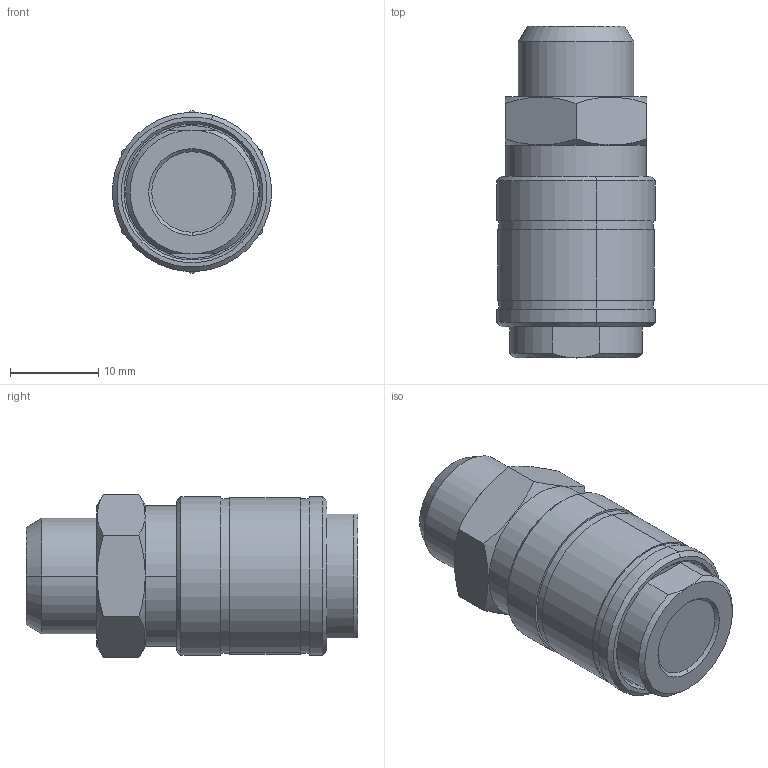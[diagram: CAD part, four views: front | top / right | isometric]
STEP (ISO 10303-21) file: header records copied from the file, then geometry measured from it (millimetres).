
FILE_DESCRIPTION (( 'STEP AP214' ), '1' );
FILE_NAME ('0018100002.step', '2012-11-19T11:01:08', ( '' ), ( '' ), 'SwSTEP 2.0', 'SolidWorks 2012', '' );
FILE_SCHEMA (( 'AUTOMOTIVE_DESIGN' ));
Length unit declared in the file: millimetre
Products named in the file (1): 0018100002
Bounding box: 17.93 x 37.5 x 18.48 mm (x, y, z)
Surface area: 5691.2 mm2 (no closed solid volume)
Topology: 0 solids, 4 shells, 76 faces, 178 edges, 114 vertices
Faces by surface type: cylinder 30, plane 24, cone 22
Entity records: 3216 total; most frequent: CARTESIAN_POINT 727, DIRECTION 390, ORIENTED_EDGE 336, EDGE_CURVE 178, AXIS2_PLACEMENT_3D 163, VERTEX_POINT 114, EDGE_LOOP 90, CIRCLE 86
